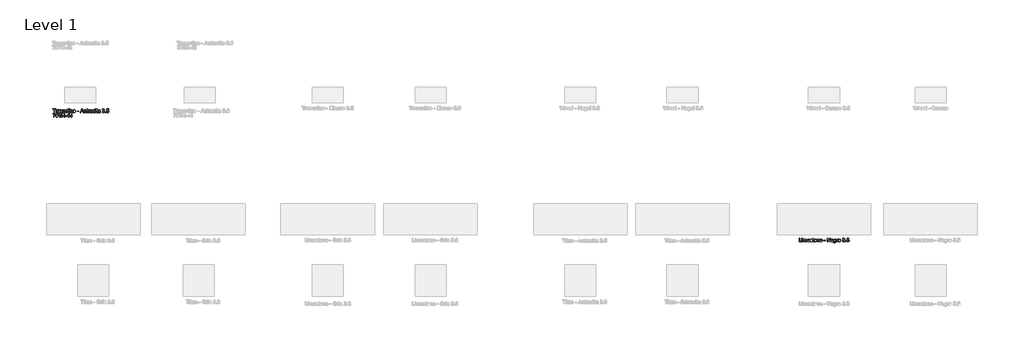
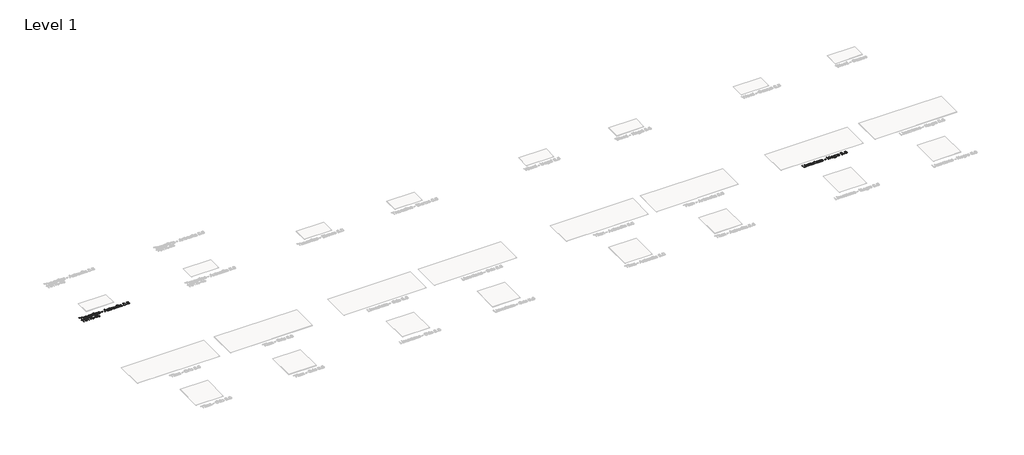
# One storey, part 11 of 80: 2 proxies.
"""IFC4 building model written with IfcOpenShell, lengths in millimetres."""

from ifc_helpers import new_model, si_unit, origin, origin_with_axes, place, context, project, spatial, polyline, outline, extrude, element, save

model = new_model("IFC4")

# Units and contexts
model_context = context("Model", 3, world=origin())
ifc_project = project(units=[si_unit("LENGTHUNIT", "METRE", prefix="MILLI")], contexts=[model_context])

# Site, building, storey
site = spatial("IfcSite", under=ifc_project)
building = spatial("IfcBuilding", under=site)
storey = spatial("IfcBuildingStorey", under=building, Name="Level 1", Elevation=0.0)

# Proxies
placement = place(None, origin())
element("IfcBuildingElementProxy", 1, Name="24\" Arial", ObjectType="24\" Arial", at=placement, inside=storey, context=model_context, shape_type="SweptSolid", body=[
    extrude(outline(polyline([(-27285.2491436, -12507.7661662), (-27285.2491436, -12404.3815508), (-27324.0183744, -12404.3815508), (-27324.0183744, -12389.61232), (-27231.7106821, -12389.61232), (-27231.7106821, -12404.3815508), (-27270.4799128, -12404.3815508), (-27270.4799128, -12507.7661662), (-27285.2491436, -12507.7661662)])), origin_with_axes(), (0.0, 0.0, 1.0), 2.0),
    extrude(outline(polyline([(-27216.9414513, -12507.7661662), (-27216.9414513, -12420.9969354), (-27204.0183744, -12420.9969354), (-27204.0183744, -12433.8334739), (-27194.8452975, -12422.0065508), (-27185.6145282, -12419.1507816), (-27170.7876051, -12423.7084739), (-27175.7202975, -12436.9488585), (-27186.1049128, -12433.9200123), (-27194.4558744, -12436.8334739), (-27199.7779898, -12444.9103969), (-27202.1722205, -12462.1603969), (-27202.1722205, -12507.7661662), (-27216.9414513, -12507.7661662)])), origin_with_axes(), (0.0, 0.0, 1.0), 2.0),
    extrude(outline(polyline([(-27106.1722205, -12496.6892431), (-27120.4943359, -12506.6988585), (-27136.3164513, -12509.61232), (-27148.6589994, -12507.8599162), (-27157.7635667, -12502.6027046), (-27163.3777494, -12494.6195316), (-27165.2491436, -12484.6892431), (-27162.4222205, -12473.0065508), (-27154.9943359, -12464.5257816), (-27144.6529898, -12459.6796277), (-27131.8741436, -12457.4584739), (-27106.258759, -12452.3815508), (-27106.1722205, -12449.0930892), (-27110.2395282, -12438.1892431), (-27126.5664513, -12433.9200123), (-27141.508759, -12436.7613585), (-27148.633759, -12446.8430892), (-27163.4029898, -12444.9969354), (-27157.0135667, -12430.5738585), (-27144.1481821, -12422.1219354), (-27124.6626051, -12419.1507816), (-27106.7635667, -12421.7757816), (-27096.6529898, -12428.3671277), (-27092.1241436, -12438.3911662), (-27091.4029898, -12451.3142431), (-27091.4029898, -12469.6892431), (-27090.6529898, -12495.3478969), (-27087.7106821, -12507.7661662), (-27102.4799128, -12507.7661662), (-27106.1722205, -12496.6892431)]), holes=[polyline([(-27106.1722205, -12467.1507816), (-27129.9991436, -12471.6796277), (-27142.7058744, -12474.0738585), (-27148.4606821, -12477.9680892), (-27150.4799128, -12483.6507816), (-27146.0808744, -12491.6411662), (-27133.1722205, -12494.8430892), (-27118.2299128, -12491.3094354), (-27108.5952975, -12482.7565508), (-27106.258759, -12471.3334739), (-27106.1722205, -12467.1507816)])]), origin_with_axes(), (0.0, 0.0, 1.0), 2.0),
    extrude(outline(polyline([(-27049.8068359, -12507.7661662), (-27080.3260667, -12420.9969354), (-27064.6914513, -12420.9969354), (-27046.2010667, -12472.9777046), (-27040.633759, -12490.4584739), (-27035.1818359, -12473.9584739), (-27016.5760667, -12420.9969354), (-27000.9414513, -12420.9969354), (-27031.0856821, -12507.7661662), (-27049.8068359, -12507.7661662)])), origin_with_axes(), (0.0, 0.0, 1.0), 2.0),
    extrude(outline(polyline([(-26927.2683744, -12481.9200123), (-26912.7876051, -12483.7661662), (-26918.0051532, -12494.6772239), (-26926.3308744, -12502.8334739), (-26937.5772686, -12507.9176085), (-26951.5568359, -12509.61232), (-26968.8861628, -12506.6880412), (-26982.2202975, -12497.9152046), (-26990.7227013, -12483.8635219), (-26993.5568359, -12465.1027046), (-26990.6938551, -12445.7108777), (-26982.1049128, -12431.2084739), (-26968.9510667, -12422.1652046), (-26952.3933744, -12419.1507816), (-26936.3513071, -12422.1579931), (-26923.5327975, -12431.1796277), (-26915.1277494, -12445.6531854), (-26912.3260667, -12465.0161662), (-26912.4126051, -12468.9969354), (-26978.7876051, -12468.9969354), (-26976.2311148, -12480.0522239), (-26970.2924128, -12488.1796277), (-26961.7214994, -12493.1772239), (-26951.2683744, -12494.8430892), (-26936.7876051, -12491.7565508), (-26927.2683744, -12481.9200123)]), holes=[polyline([(-26978.7876051, -12454.2277046), (-26927.0952975, -12454.2277046), (-26933.008759, -12440.8430892), (-26941.6193359, -12435.6507816), (-26952.4510667, -12433.9200123), (-26970.6385667, -12439.4440508), (-26976.3609225, -12445.9019835), (-26978.7876051, -12454.2277046)])]), origin_with_axes(), (0.0, 0.0, 1.0), 2.0),
    extrude(outline(polyline([(-26897.5568359, -12507.7661662), (-26897.5568359, -12420.9969354), (-26884.633759, -12420.9969354), (-26884.633759, -12433.8334739), (-26875.4606821, -12422.0065508), (-26866.2299128, -12419.1507816), (-26851.4029898, -12423.7084739), (-26856.3356821, -12436.9488585), (-26866.7202975, -12433.9200123), (-26875.071259, -12436.8334739), (-26880.3933744, -12444.9103969), (-26882.7876051, -12462.1603969), (-26882.7876051, -12507.7661662), (-26897.5568359, -12507.7661662)])), origin_with_axes(), (0.0, 0.0, 1.0), 2.0),
    extrude(outline(polyline([(-26810.7876051, -12495.4488585), (-26808.9414513, -12508.1988585), (-26819.9895282, -12509.61232), (-26832.3645282, -12507.1603969), (-26838.5376051, -12500.7277046), (-26840.3260667, -12483.9680892), (-26840.3260667, -12435.7661662), (-26851.4029898, -12435.7661662), (-26851.4029898, -12420.9969354), (-26840.3260667, -12420.9969354), (-26840.3260667, -12399.9103969), (-26825.5568359, -12391.2277046), (-26825.5568359, -12420.9969354), (-26810.7876051, -12420.9969354), (-26810.7876051, -12435.7661662), (-26825.5568359, -12435.7661662), (-26825.5568359, -12483.5353969), (-26824.7779898, -12491.1507816), (-26822.2539513, -12493.8478969), (-26817.2202975, -12494.8430892), (-26810.7876051, -12495.4488585)])), origin_with_axes(), (0.0, 0.0, 1.0), 2.0),
    extrude(outline(polyline([(-26796.0183744, -12404.3815508), (-26796.0183744, -12389.61232), (-26781.2491436, -12389.61232), (-26781.2491436, -12404.3815508), (-26796.0183744, -12404.3815508)])), origin_with_axes(), (0.0, 0.0, 1.0), 2.0),
    extrude(outline(polyline([(-26796.0183744, -12507.7661662), (-26796.0183744, -12420.9969354), (-26781.2491436, -12420.9969354), (-26781.2491436, -12507.7661662), (-26796.0183744, -12507.7661662)])), origin_with_axes(), (0.0, 0.0, 1.0), 2.0),
    extrude(outline(polyline([(-26759.0952975, -12507.7661662), (-26759.0952975, -12420.9969354), (-26744.3260667, -12420.9969354), (-26744.3260667, -12433.11232), (-26733.0327975, -12422.6411662), (-26717.6145282, -12419.1507816), (-26703.6674128, -12421.9632816), (-26694.1481821, -12429.3478969), (-26689.7202975, -12440.2084739), (-26688.9414513, -12454.48732), (-26688.9414513, -12507.7661662), (-26703.7106821, -12507.7661662), (-26703.7106821, -12456.4777046), (-26705.4126051, -12443.4103969), (-26711.4270282, -12436.5017431), (-26721.5664513, -12433.9200123), (-26737.5904898, -12439.7180892), (-26742.6421725, -12448.1195316), (-26744.3260667, -12461.7277046), (-26744.3260667, -12507.7661662), (-26759.0952975, -12507.7661662)])), origin_with_axes(), (0.0, 0.0, 1.0), 2.0),
    extrude(outline(polyline([(-26672.3260667, -12464.3815508), (-26669.1313551, -12443.4608777), (-26659.5472205, -12428.7565508), (-26647.7058744, -12421.5522239), (-26633.5279898, -12419.1507816), (-26618.0123648, -12422.0750604), (-26605.6193359, -12430.8478969), (-26597.4955378, -12444.7769835), (-26594.7876051, -12463.1700123), (-26599.5760667, -12489.4488585), (-26613.5231821, -12504.3190508), (-26633.5279898, -12509.61232), (-26649.2311148, -12506.6988585), (-26661.6097205, -12497.9584739), (-26669.6469801, -12483.73732), (-26672.3260667, -12464.3815508)]), holes=[polyline([(-26657.5568359, -12464.3527046), (-26655.8477013, -12477.7192912), (-26650.7202975, -12487.2421277), (-26643.0039513, -12492.9428489), (-26633.5279898, -12494.8430892), (-26624.0952975, -12492.9320316), (-26616.3933744, -12487.1988585), (-26611.2659705, -12477.54982), (-26609.5568359, -12463.8911662), (-26611.2767878, -12450.9140027), (-26616.4366436, -12441.5209739), (-26624.149384, -12435.8202527), (-26633.5279898, -12433.9200123), (-26643.0039513, -12435.8130412), (-26650.7202975, -12441.4921277), (-26655.8477013, -12450.9933296), (-26657.5568359, -12464.3527046)])]), origin_with_axes(), (0.0, 0.0, 1.0), 2.0),
    extrude(outline(polyline([(-26539.4029898, -12472.6892431), (-26539.4029898, -12457.9200123), (-26493.2491436, -12457.9200123), (-26493.2491436, -12472.6892431), (-26539.4029898, -12472.6892431)])), origin_with_axes(), (0.0, 0.0, 1.0), 2.0),
    extrude(outline(polyline([(-26442.3933744, -12507.7661662), (-26395.2299128, -12389.61232), (-26382.6529898, -12389.61232), (-26335.4895282, -12507.7661662), (-26351.0952975, -12507.7661662), (-26364.6241436, -12470.8430892), (-26413.2876051, -12470.8430892), (-26426.7876051, -12507.7661662), (-26442.3933744, -12507.7661662)]), holes=[polyline([(-26407.8645282, -12456.0738585), (-26370.0183744, -12456.0738585), (-26380.6626051, -12427.0257816), (-26388.9414513, -12404.3815508), (-26396.2972205, -12424.48732), (-26407.8645282, -12456.0738585)])]), origin_with_axes(), (0.0, 0.0, 1.0), 2.0),
    extrude(outline(polyline([(-26321.5568359, -12507.7661662), (-26321.5568359, -12420.9969354), (-26306.7876051, -12420.9969354), (-26306.7876051, -12433.11232), (-26295.4943359, -12422.6411662), (-26280.0760667, -12419.1507816), (-26266.1289513, -12421.9632816), (-26256.6097205, -12429.3478969), (-26252.1818359, -12440.2084739), (-26251.4029898, -12454.48732), (-26251.4029898, -12507.7661662), (-26266.1722205, -12507.7661662), (-26266.1722205, -12456.4777046), (-26267.8741436, -12443.4103969), (-26273.8885667, -12436.5017431), (-26284.0279898, -12433.9200123), (-26300.0520282, -12439.7180892), (-26305.1037109, -12448.1195316), (-26306.7876051, -12461.7277046), (-26306.7876051, -12507.7661662), (-26321.5568359, -12507.7661662)])), origin_with_axes(), (0.0, 0.0, 1.0), 2.0),
    extrude(outline(polyline([(-26199.7106821, -12495.4488585), (-26197.8645282, -12508.1988585), (-26208.9126051, -12509.61232), (-26221.2876051, -12507.1603969), (-26227.4606821, -12500.7277046), (-26229.2491436, -12483.9680892), (-26229.2491436, -12435.7661662), (-26240.3260667, -12435.7661662), (-26240.3260667, -12420.9969354), (-26229.2491436, -12420.9969354), (-26229.2491436, -12399.9103969), (-26214.4799128, -12391.2277046), (-26214.4799128, -12420.9969354), (-26199.7106821, -12420.9969354), (-26199.7106821, -12435.7661662), (-26214.4799128, -12435.7661662), (-26214.4799128, -12483.5353969), (-26213.7010667, -12491.1507816), (-26211.1770282, -12493.8478969), (-26206.1433744, -12494.8430892), (-26199.7106821, -12495.4488585)])), origin_with_axes(), (0.0, 0.0, 1.0), 2.0),
    extrude(outline(polyline([(-26184.9414513, -12507.7661662), (-26184.9414513, -12420.9969354), (-26172.0183744, -12420.9969354), (-26172.0183744, -12433.8334739), (-26162.8452975, -12422.0065508), (-26153.6145282, -12419.1507816), (-26138.7876051, -12423.7084739), (-26143.7202975, -12436.9488585), (-26154.1049128, -12433.9200123), (-26162.4558744, -12436.8334739), (-26167.7779898, -12444.9103969), (-26170.1722205, -12462.1603969), (-26170.1722205, -12507.7661662), (-26184.9414513, -12507.7661662)])), origin_with_axes(), (0.0, 0.0, 1.0), 2.0),
    extrude(outline(polyline([(-26074.1722205, -12496.6892431), (-26088.4943359, -12506.6988585), (-26104.3164513, -12509.61232), (-26116.6589994, -12507.8599162), (-26125.7635667, -12502.6027046), (-26131.3777494, -12494.6195316), (-26133.2491436, -12484.6892431), (-26130.4222205, -12473.0065508), (-26122.9943359, -12464.5257816), (-26112.6529898, -12459.6796277), (-26099.8741436, -12457.4584739), (-26074.258759, -12452.3815508), (-26074.1722205, -12449.0930892), (-26078.2395282, -12438.1892431), (-26094.5664513, -12433.9200123), (-26109.508759, -12436.7613585), (-26116.633759, -12446.8430892), (-26131.4029898, -12444.9969354), (-26125.0135667, -12430.5738585), (-26112.1481821, -12422.1219354), (-26092.6626051, -12419.1507816), (-26074.7635667, -12421.7757816), (-26064.6529898, -12428.3671277), (-26060.1241436, -12438.3911662), (-26059.4029898, -12451.3142431), (-26059.4029898, -12469.6892431), (-26058.6529898, -12495.3478969), (-26055.7106821, -12507.7661662), (-26070.4799128, -12507.7661662), (-26074.1722205, -12496.6892431)]), holes=[polyline([(-26074.1722205, -12467.1507816), (-26097.9991436, -12471.6796277), (-26110.7058744, -12474.0738585), (-26116.4606821, -12477.9680892), (-26118.4799128, -12483.6507816), (-26114.0808744, -12491.6411662), (-26101.1722205, -12494.8430892), (-26086.2299128, -12491.3094354), (-26076.5952975, -12482.7565508), (-26074.258759, -12471.3334739), (-26074.1722205, -12467.1507816)])]), origin_with_axes(), (0.0, 0.0, 1.0), 2.0),
    extrude(outline(polyline([(-25983.7106821, -12476.3815508), (-25968.9414513, -12478.2277046), (-25973.0592398, -12491.3635219), (-25980.7972205, -12501.2902046), (-25991.4270282, -12507.5317912), (-26004.2202975, -12509.61232), (-26019.930634, -12506.7096758), (-26032.2154898, -12498.0017431), (-26040.1445763, -12483.8707335), (-26042.7876051, -12464.6988585), (-26038.2731821, -12440.1652046), (-26032.5760667, -12430.9668873), (-26024.5135667, -12424.4007816), (-26004.4222205, -12419.1507816), (-25991.9426532, -12420.9536662), (-25981.9654898, -12426.36232), (-25974.8080378, -12435.0882816), (-25970.7876051, -12446.8430892), (-25985.5568359, -12448.6892431), (-25992.4077975, -12437.6267431), (-26004.3068359, -12433.9200123), (-26013.8513071, -12435.7445316), (-26021.4270282, -12441.2180892), (-26026.3705378, -12450.6363585), (-26028.0183744, -12464.2950123), (-26026.4065955, -12478.1375604), (-26021.571259, -12487.5882816), (-26014.1325571, -12493.0293873), (-26004.7106821, -12494.8430892), (-25990.7924128, -12490.3142431), (-25983.7106821, -12476.3815508)])), origin_with_axes(), (0.0, 0.0, 1.0), 2.0),
    extrude(outline(polyline([(-25956.0183744, -12404.3815508), (-25956.0183744, -12389.61232), (-25941.2491436, -12389.61232), (-25941.2491436, -12404.3815508), (-25956.0183744, -12404.3815508)])), origin_with_axes(), (0.0, 0.0, 1.0), 2.0),
    extrude(outline(polyline([(-25956.0183744, -12507.7661662), (-25956.0183744, -12420.9969354), (-25941.2491436, -12420.9969354), (-25941.2491436, -12507.7661662), (-25956.0183744, -12507.7661662)])), origin_with_axes(), (0.0, 0.0, 1.0), 2.0),
    extrude(outline(polyline([(-25887.7106821, -12495.4488585), (-25885.8645282, -12508.1988585), (-25896.9126051, -12509.61232), (-25909.2876051, -12507.1603969), (-25915.4606821, -12500.7277046), (-25917.2491436, -12483.9680892), (-25917.2491436, -12435.7661662), (-25928.3260667, -12435.7661662), (-25928.3260667, -12420.9969354), (-25917.2491436, -12420.9969354), (-25917.2491436, -12399.9103969), (-25902.4799128, -12391.2277046), (-25902.4799128, -12420.9969354), (-25887.7106821, -12420.9969354), (-25887.7106821, -12435.7661662), (-25902.4799128, -12435.7661662), (-25902.4799128, -12483.5353969), (-25901.7010667, -12491.1507816), (-25899.1770282, -12493.8478969), (-25894.1433744, -12494.8430892), (-25887.7106821, -12495.4488585)])), origin_with_axes(), (0.0, 0.0, 1.0), 2.0),
    extrude(outline(polyline([(-25817.5568359, -12496.6892431), (-25831.8789513, -12506.6988585), (-25847.7010667, -12509.61232), (-25860.0436148, -12507.8599162), (-25869.1481821, -12502.6027046), (-25874.7623648, -12494.6195316), (-25876.633759, -12484.6892431), (-25873.8068359, -12473.0065508), (-25866.3789513, -12464.5257816), (-25856.0376051, -12459.6796277), (-25843.258759, -12457.4584739), (-25817.6433744, -12452.3815508), (-25817.5568359, -12449.0930892), (-25821.6241436, -12438.1892431), (-25837.9510667, -12433.9200123), (-25852.8933744, -12436.7613585), (-25860.0183744, -12446.8430892), (-25874.7876051, -12444.9969354), (-25868.3981821, -12430.5738585), (-25855.5327975, -12422.1219354), (-25836.0472205, -12419.1507816), (-25818.1481821, -12421.7757816), (-25808.0376051, -12428.3671277), (-25803.508759, -12438.3911662), (-25802.7876051, -12451.3142431), (-25802.7876051, -12469.6892431), (-25802.0376051, -12495.3478969), (-25799.0952975, -12507.7661662), (-25813.8645282, -12507.7661662), (-25817.5568359, -12496.6892431)]), holes=[polyline([(-25817.5568359, -12467.1507816), (-25841.383759, -12471.6796277), (-25854.0904898, -12474.0738585), (-25859.8452975, -12477.9680892), (-25861.8645282, -12483.6507816), (-25857.4654898, -12491.6411662), (-25844.5568359, -12494.8430892), (-25829.6145282, -12491.3094354), (-25819.9799128, -12482.7565508), (-25817.6433744, -12471.3334739), (-25817.5568359, -12467.1507816)])]), origin_with_axes(), (0.0, 0.0, 1.0), 2.0),
    extrude(outline(polyline([(-25740.0183744, -12476.3815508), (-25725.2491436, -12474.5353969), (-25717.1001051, -12490.0834739), (-25701.8549128, -12494.8430892), (-25691.7299128, -12493.20607), (-25683.9126051, -12488.2950123), (-25678.915009, -12480.9680892), (-25677.2491436, -12472.0834739), (-25678.9005859, -12463.6495796), (-25683.8549128, -12456.8094354), (-25691.3549128, -12452.2769835), (-25700.6433744, -12450.7661662), (-25710.9991436, -12452.3815508), (-25709.3549128, -12437.61232), (-25706.9895282, -12437.7853969), (-25690.2299128, -12433.5450123), (-25684.6481821, -12428.1652046), (-25682.7876051, -12420.5065508), (-25688.1818359, -12408.9536662), (-25702.0856821, -12404.3815508), (-25716.1626051, -12408.9969354), (-25723.4029898, -12422.8430892), (-25738.1722205, -12420.9969354), (-25733.8236628, -12407.7349162), (-25726.0856821, -12397.8334739), (-25715.4991436, -12391.6676085), (-25702.6049128, -12389.61232), (-25684.7924128, -12393.6652046), (-25672.3308744, -12404.7421277), (-25668.0183744, -12419.6411662), (-25672.1145282, -12433.2565508), (-25684.2299128, -12443.0353969), (-25674.9847205, -12446.7709739), (-25668.133759, -12453.1315508), (-25663.8933744, -12461.7709739), (-25662.4799128, -12472.3430892), (-25665.3068359, -12486.73732), (-25673.7876051, -12498.7661662), (-25686.5880859, -12506.9007816), (-25702.3741436, -12509.61232), (-25716.6529898, -12507.2974162), (-25728.2779898, -12500.3527046), (-25736.3621244, -12489.7301085), (-25740.0183744, -12476.3815508)])), origin_with_axes(), (0.0, 0.0, 1.0), 2.0),
    extrude(outline(polyline([(-25642.1722205, -12507.7661662), (-25642.1722205, -12492.9969354), (-25627.4029898, -12492.9969354), (-25627.4029898, -12507.7661662), (-25642.1722205, -12507.7661662)])), origin_with_axes(), (0.0, 0.0, 1.0), 2.0),
    extrude(outline(polyline([(-25603.4029898, -12476.3815508), (-25588.633759, -12474.5353969), (-25581.1914513, -12489.7517431), (-25565.758759, -12494.8430892), (-25555.1722205, -12493.0726566), (-25547.2395282, -12487.7613585), (-25542.2852013, -12479.5221758), (-25540.633759, -12468.9680892), (-25542.180634, -12459.0305892), (-25546.821259, -12451.4296277), (-25554.5916917, -12446.6051085), (-25565.5279898, -12444.9969354), (-25578.4943359, -12447.5642431), (-25586.7876051, -12454.2277046), (-25601.5568359, -12452.3815508), (-25588.633759, -12391.4584739), (-25531.4029898, -12391.4584739), (-25531.4029898, -12406.2277046), (-25576.6914513, -12406.2277046), (-25583.008759, -12438.7661662), (-25572.4582782, -12432.36232), (-25561.4029898, -12430.2277046), (-25547.6037109, -12432.8743392), (-25536.1481821, -12440.8142431), (-25528.4354417, -12452.9152046), (-25525.8645282, -12468.0450123), (-25528.1794321, -12482.8142431), (-25535.1241436, -12495.4488585), (-25548.4222205, -12506.0714546), (-25565.8164513, -12509.61232), (-25580.3224609, -12507.3370796), (-25591.8789513, -12500.5113585), (-25599.8008263, -12489.9284258), (-25603.4029898, -12476.3815508)])), origin_with_axes(), (0.0, 0.0, 1.0), 2.0),
    extrude(outline(polyline([(-27320.3260667, -12552.0738585), (-27320.3260667, -12537.3046277), (-27242.7876051, -12537.3046277), (-27242.7876051, -12549.2469354), (-27264.7827975, -12581.0209739), (-27281.6145282, -12621.5065508), (-27287.0952975, -12653.61232), (-27301.8645282, -12653.61232), (-27295.9943359, -12620.2950123), (-27279.883759, -12582.6363585), (-27257.5568359, -12552.0738585), (-27320.3260667, -12552.0738585)])), origin_with_axes(), (0.0, 0.0, 1.0), 2.0),
    extrude(outline(polyline([(-27208.3452975, -12588.5353969), (-27221.8020282, -12579.36232), (-27226.1722205, -12565.0834739), (-27223.7924128, -12553.5378008), (-27216.6529898, -12543.9969354), (-27205.5544321, -12537.5930892), (-27191.2972205, -12535.4584739), (-27176.9534705, -12537.64357), (-27165.7106821, -12544.1988585), (-27158.4414513, -12553.8911662), (-27156.0183744, -12565.48732), (-27160.3308744, -12579.4055892), (-27173.4126051, -12588.5353969), (-27164.3224609, -12593.2192912), (-27157.7058744, -12600.1171277), (-27152.3260667, -12619.2277046), (-27154.9943359, -12633.3478969), (-27162.9991436, -12645.0161662), (-27175.3597205, -12652.8478969), (-27191.0952975, -12655.4584739), (-27206.8308744, -12652.8370796), (-27219.1914513, -12644.9728969), (-27227.196259, -12633.1928489), (-27229.8645282, -12618.8238585), (-27228.4654898, -12608.0930892), (-27224.2683744, -12599.2661662), (-27217.4895282, -12592.6459739), (-27208.3452975, -12588.5353969)]), holes=[polyline([(-27215.0952975, -12618.3046277), (-27212.6289513, -12629.42482), (-27203.9029898, -12637.7469354), (-27190.9799128, -12640.6892431), (-27180.9270282, -12639.1423681), (-27173.383759, -12634.5017431), (-27168.6674128, -12627.4740989), (-27167.0952975, -12618.7661662), (-27168.7178936, -12609.9103969), (-27173.5856821, -12602.7277046), (-27181.3020282, -12597.9680892), (-27191.4702975, -12596.3815508), (-27201.3825571, -12597.9464546), (-27208.8501051, -12602.6411662), (-27213.5339994, -12609.6868392), (-27215.0952975, -12618.3046277)]), polyline([(-27211.4029898, -12565.5161662), (-27206.1674128, -12577.11232), (-27190.9222205, -12581.61232), (-27175.9799128, -12577.1411662), (-27170.7876051, -12566.1796277), (-27176.1529898, -12554.8286662), (-27191.0952975, -12550.2277046), (-27206.0808744, -12554.7277046), (-27211.4029898, -12565.5161662)])]), origin_with_axes(), (0.0, 0.0, 1.0), 2.0),
    extrude(outline(polyline([(-27104.3260667, -12653.61232), (-27104.3260667, -12550.2277046), (-27143.0952975, -12550.2277046), (-27143.0952975, -12535.4584739), (-27050.7876051, -12535.4584739), (-27050.7876051, -12550.2277046), (-27089.5568359, -12550.2277046), (-27089.5568359, -12653.61232), (-27104.3260667, -12653.61232)])), origin_with_axes(), (0.0, 0.0, 1.0), 2.0),
    extrude(outline(polyline([(-27034.1722205, -12653.61232), (-27034.1722205, -12535.4584739), (-26983.258759, -12535.4584739), (-26959.6193359, -12538.6459739), (-26946.696259, -12549.92482), (-26941.8645282, -12567.7950123), (-26943.8657301, -12579.4344354), (-26949.8693359, -12589.0834739), (-26960.055634, -12596.1579931), (-26974.6049128, -12600.0738585), (-26966.2106821, -12606.3911662), (-26954.2395282, -12621.5930892), (-26934.5376051, -12653.61232), (-26951.7010667, -12653.61232), (-26967.0760667, -12629.1219354), (-26978.1818359, -12612.9103969), (-26985.9847205, -12605.2517431), (-26993.008759, -12602.4392431), (-27001.5760667, -12601.9200123), (-27019.4029898, -12601.9200123), (-27019.4029898, -12653.61232), (-27034.1722205, -12653.61232)]), holes=[polyline([(-27019.4029898, -12587.1507816), (-26986.3452975, -12587.1507816), (-26969.4847205, -12585.0594354), (-26959.9077975, -12578.3671277), (-26956.633759, -12568.3430892), (-26958.1950571, -12561.1387623), (-26962.8789513, -12555.3334739), (-26970.9378455, -12551.5041469), (-26982.6241436, -12550.2277046), (-27019.4029898, -12550.2277046), (-27019.4029898, -12587.1507816)])]), origin_with_axes(), (0.0, 0.0, 1.0), 2.0),
    extrude(outline(polyline([(-26925.2491436, -12618.5353969), (-26925.2491436, -12603.7661662), (-26879.0952975, -12603.7661662), (-26879.0952975, -12618.5353969), (-26925.2491436, -12618.5353969)])), origin_with_axes(), (0.0, 0.0, 1.0), 2.0),
    extrude(outline(polyline([(-26818.1722205, -12653.61232), (-26818.1722205, -12625.9200123), (-26871.7106821, -12625.9200123), (-26871.7106821, -12611.1507816), (-26814.4799128, -12537.3046277), (-26803.4029898, -12537.3046277), (-26803.4029898, -12611.1507816), (-26788.633759, -12611.1507816), (-26788.633759, -12625.9200123), (-26803.4029898, -12625.9200123), (-26803.4029898, -12653.61232), (-26818.1722205, -12653.61232)]), holes=[polyline([(-26818.1722205, -12611.1507816), (-26818.1722205, -12565.5161662), (-26853.5376051, -12611.1507816), (-26818.1722205, -12611.1507816)])]), origin_with_axes(), (0.0, 0.0, 1.0), 2.0),
    extrude(outline(polyline([(-26727.7106821, -12653.61232), (-26727.7106821, -12625.9200123), (-26781.2491436, -12625.9200123), (-26781.2491436, -12611.1507816), (-26724.0183744, -12537.3046277), (-26712.9414513, -12537.3046277), (-26712.9414513, -12611.1507816), (-26698.1722205, -12611.1507816), (-26698.1722205, -12625.9200123), (-26712.9414513, -12625.9200123), (-26712.9414513, -12653.61232), (-26727.7106821, -12653.61232)]), holes=[polyline([(-26727.7106821, -12611.1507816), (-26727.7106821, -12565.5161662), (-26763.0760667, -12611.1507816), (-26727.7106821, -12611.1507816)])]), origin_with_axes(), (0.0, 0.0, 1.0), 2.0),
])
element("IfcBuildingElementProxy", 2, Name="24\" Arial", ObjectType="24\" Arial", at=placement, inside=storey, context=model_context, shape_type="SweptSolid", body=[
    extrude(outline(polyline([(-3383.0761079, -16654.869717), (-3383.0761079, -16536.7158709), (-3368.3068771, -16536.7158709), (-3368.3068771, -16640.1004862), (-3309.2299541, -16640.1004862), (-3309.2299541, -16654.869717), (-3383.0761079, -16654.869717)])), origin_with_axes(), (0.0, 0.0, 1.0), 2.0),
    extrude(outline(polyline([(-3294.4607233, -16551.4851016), (-3294.4607233, -16536.7158709), (-3279.6914925, -16536.7158709), (-3279.6914925, -16551.4851016), (-3294.4607233, -16551.4851016)])), origin_with_axes(), (0.0, 0.0, 1.0), 2.0),
    extrude(outline(polyline([(-3294.4607233, -16654.869717), (-3294.4607233, -16568.1004862), (-3279.6914925, -16568.1004862), (-3279.6914925, -16654.869717), (-3294.4607233, -16654.869717)])), origin_with_axes(), (0.0, 0.0, 1.0), 2.0),
    extrude(outline(polyline([(-3257.5376464, -16654.869717), (-3257.5376464, -16568.1004862), (-3242.7684156, -16568.1004862), (-3242.7684156, -16582.3793324), (-3232.6145694, -16570.682217), (-3218.1626464, -16566.2543324), (-3203.3645694, -16570.7687555), (-3195.2299541, -16583.4177939), (-3183.7059156, -16570.5451978), (-3169.153031, -16566.2543324), (-3158.0508675, -16568.0391882), (-3149.840531, -16573.3937555), (-3144.7672137, -16582.4622651), (-3143.0761079, -16595.3889478), (-3143.0761079, -16654.869717), (-3157.8453387, -16654.869717), (-3157.8453387, -16601.7351016), (-3159.215531, -16589.4033709), (-3164.1770694, -16583.3312555), (-3172.6145694, -16581.0235632), (-3180.6157714, -16582.5019285), (-3187.1386079, -16586.9370247), (-3191.4763483, -16594.6317362), (-3192.9222617, -16605.8889478), (-3192.9222617, -16654.869717), (-3207.6914925, -16654.869717), (-3207.6914925, -16600.0908709), (-3211.1097617, -16585.7831785), (-3222.3164925, -16581.0235632), (-3233.2491848, -16584.1966401), (-3240.5184156, -16593.4851016), (-3242.7684156, -16611.1101016), (-3242.7684156, -16654.869717), (-3257.5376464, -16654.869717)])), origin_with_axes(), (0.0, 0.0, 1.0), 2.0),
    extrude(outline(polyline([(-3060.1722617, -16629.0235632), (-3045.6914925, -16630.869717), (-3050.9090406, -16641.7807747), (-3059.2347617, -16649.9370247), (-3070.481156, -16655.0211593), (-3084.4607233, -16656.7158709), (-3101.7900502, -16653.791592), (-3115.1241848, -16645.0187555), (-3123.6265887, -16630.9670728), (-3126.4607233, -16612.2062555), (-3123.5977425, -16592.8144285), (-3115.0088002, -16578.3120247), (-3101.8549541, -16569.2687555), (-3085.2972617, -16566.2543324), (-3069.2551944, -16569.2615439), (-3056.4366848, -16578.2831785), (-3048.0316367, -16592.7567362), (-3045.2299541, -16612.119717), (-3045.3164925, -16616.1004862), (-3111.6914925, -16616.1004862), (-3109.1350021, -16627.1557747), (-3103.1963002, -16635.2831785), (-3094.6253867, -16640.2807747), (-3084.1722617, -16641.9466401), (-3069.6914925, -16638.8601016), (-3060.1722617, -16629.0235632)]), holes=[polyline([(-3111.6914925, -16601.3312555), (-3059.9991848, -16601.3312555), (-3065.9126464, -16587.9466401), (-3074.5232233, -16582.7543324), (-3085.3549541, -16581.0235632), (-3103.5424541, -16586.5476016), (-3109.2648098, -16593.0055343), (-3111.6914925, -16601.3312555)])]), origin_with_axes(), (0.0, 0.0, 1.0), 2.0),
    extrude(outline(polyline([(-3035.9991848, -16629.0235632), (-3021.2299541, -16627.1774093), (-3014.3934156, -16638.1389478), (-2998.7299541, -16641.9466401), (-2983.6722617, -16638.4562555), (-2978.7684156, -16630.2639478), (-2983.7011079, -16623.6293324), (-2998.903031, -16619.4177939), (-3021.1434156, -16612.1918324), (-3030.8501464, -16603.7543324), (-3034.153031, -16591.8408709), (-3031.4991848, -16580.8360632), (-3024.2588002, -16572.4274093), (-3014.8693771, -16568.057217), (-3002.1626464, -16566.2543324), (-2984.1914925, -16569.1533709), (-2972.7684156, -16576.9995247), (-2967.6914925, -16590.2543324), (-2982.4607233, -16592.1004862), (-2988.0136079, -16583.9514478), (-3001.0088002, -16581.0235632), (-3015.1434156, -16583.8216401), (-3019.3838002, -16590.3408709), (-3017.6241848, -16594.6389478), (-3012.1145694, -16597.8985632), (-2999.3934156, -16601.0427939), (-2977.715531, -16607.994717), (-2967.6482233, -16615.869717), (-2963.9991848, -16628.7062555), (-2968.2828387, -16642.8408709), (-2980.6434156, -16653.0956785), (-2998.9318771, -16656.7158709), (-3013.8237041, -16654.9706785), (-3024.6914925, -16649.7351016), (-3031.9463002, -16641.0668324), (-3035.9991848, -16629.0235632)])), origin_with_axes(), (0.0, 0.0, 1.0), 2.0),
    extrude(outline(polyline([(-2915.9991848, -16642.5524093), (-2914.153031, -16655.3024093), (-2925.2011079, -16656.7158709), (-2937.5761079, -16654.2639478), (-2943.7491848, -16647.8312555), (-2945.5376464, -16631.0716401), (-2945.5376464, -16582.869717), (-2956.6145694, -16582.869717), (-2956.6145694, -16568.1004862), (-2945.5376464, -16568.1004862), (-2945.5376464, -16547.0139478), (-2930.7684156, -16538.3312555), (-2930.7684156, -16568.1004862), (-2915.9991848, -16568.1004862), (-2915.9991848, -16582.869717), (-2930.7684156, -16582.869717), (-2930.7684156, -16630.6389478), (-2929.9895694, -16638.2543324), (-2927.465531, -16640.9514478), (-2922.4318771, -16641.9466401), (-2915.9991848, -16642.5524093)])), origin_with_axes(), (0.0, 0.0, 1.0), 2.0),
    extrude(outline(polyline([(-2904.9222617, -16611.4851016), (-2901.7275502, -16590.5644285), (-2892.1434156, -16575.8601016), (-2880.3020694, -16568.6557747), (-2866.1241848, -16566.2543324), (-2850.6085598, -16569.1786112), (-2838.215531, -16577.9514478), (-2830.0917329, -16591.8805343), (-2827.3838002, -16610.2735632), (-2832.1722617, -16636.5524093), (-2846.1193771, -16651.4226016), (-2866.1241848, -16656.7158709), (-2881.8273098, -16653.8024093), (-2894.2059156, -16645.0620247), (-2902.2431752, -16630.8408709), (-2904.9222617, -16611.4851016)]), holes=[polyline([(-2890.153031, -16611.4562555), (-2888.4438964, -16624.822842), (-2883.3164925, -16634.3456785), (-2875.6001464, -16640.0463997), (-2866.1241848, -16641.9466401), (-2856.6914925, -16640.0355824), (-2848.9895694, -16634.3024093), (-2843.8621656, -16624.6533709), (-2842.153031, -16610.994717), (-2843.8729829, -16598.0175535), (-2849.0328387, -16588.6245247), (-2856.7455791, -16582.9238035), (-2866.1241848, -16581.0235632), (-2875.6001464, -16582.916592), (-2883.3164925, -16588.5956785), (-2888.4438964, -16598.0968805), (-2890.153031, -16611.4562555)])]), origin_with_axes(), (0.0, 0.0, 1.0), 2.0),
    extrude(outline(polyline([(-2810.7684156, -16654.869717), (-2810.7684156, -16568.1004862), (-2795.9991848, -16568.1004862), (-2795.9991848, -16580.2158709), (-2784.7059156, -16569.744717), (-2769.2876464, -16566.2543324), (-2755.340531, -16569.0668324), (-2745.8213002, -16576.4514478), (-2741.3934156, -16587.3120247), (-2740.6145694, -16601.5908709), (-2740.6145694, -16654.869717), (-2755.3838002, -16654.869717), (-2755.3838002, -16603.5812555), (-2757.0857233, -16590.5139478), (-2763.1001464, -16583.6052939), (-2773.2395694, -16581.0235632), (-2789.2636079, -16586.8216401), (-2794.3152906, -16595.2230824), (-2795.9991848, -16608.8312555), (-2795.9991848, -16654.869717), (-2810.7684156, -16654.869717)])), origin_with_axes(), (0.0, 0.0, 1.0), 2.0),
    extrude(outline(polyline([(-2659.5568771, -16629.0235632), (-2645.0761079, -16630.869717), (-2650.293656, -16641.7807747), (-2658.6193771, -16649.9370247), (-2669.8657714, -16655.0211593), (-2683.8453387, -16656.7158709), (-2701.1746656, -16653.791592), (-2714.5088002, -16645.0187555), (-2723.0112041, -16630.9670728), (-2725.8453387, -16612.2062555), (-2722.9823579, -16592.8144285), (-2714.3934156, -16578.3120247), (-2701.2395694, -16569.2687555), (-2684.6818771, -16566.2543324), (-2668.6398098, -16569.2615439), (-2655.8213002, -16578.2831785), (-2647.4162521, -16592.7567362), (-2644.6145694, -16612.119717), (-2644.7011079, -16616.1004862), (-2711.0761079, -16616.1004862), (-2708.5196175, -16627.1557747), (-2702.5809156, -16635.2831785), (-2694.0100021, -16640.2807747), (-2683.5568771, -16641.9466401), (-2669.0761079, -16638.8601016), (-2659.5568771, -16629.0235632)]), holes=[polyline([(-2711.0761079, -16601.3312555), (-2659.3838002, -16601.3312555), (-2665.2972617, -16587.9466401), (-2673.9078387, -16582.7543324), (-2684.7395694, -16581.0235632), (-2702.9270694, -16586.5476016), (-2708.6494252, -16593.0055343), (-2711.0761079, -16601.3312555)])]), origin_with_axes(), (0.0, 0.0, 1.0), 2.0),
    extrude(outline(polyline([(-2591.0761079, -16619.7927939), (-2591.0761079, -16605.0235632), (-2544.9222617, -16605.0235632), (-2544.9222617, -16619.7927939), (-2591.0761079, -16619.7927939)])), origin_with_axes(), (0.0, 0.0, 1.0), 2.0),
    extrude(outline(polyline([(-2480.3068771, -16654.869717), (-2480.3068771, -16536.7158709), (-2464.4991848, -16536.7158709), (-2402.7684156, -16630.3216401), (-2402.7684156, -16536.7158709), (-2387.9991848, -16536.7158709), (-2387.9991848, -16654.869717), (-2403.8068771, -16654.869717), (-2465.5376464, -16561.2351016), (-2465.5376464, -16654.869717), (-2480.3068771, -16654.869717)])), origin_with_axes(), (0.0, 0.0, 1.0), 2.0),
    extrude(outline(polyline([(-2303.2491848, -16629.0235632), (-2288.7684156, -16630.869717), (-2293.9859637, -16641.7807747), (-2302.3116848, -16649.9370247), (-2313.5580791, -16655.0211593), (-2327.5376464, -16656.7158709), (-2344.8669733, -16653.791592), (-2358.2011079, -16645.0187555), (-2366.7035117, -16630.9670728), (-2369.5376464, -16612.2062555), (-2366.6746656, -16592.8144285), (-2358.0857233, -16578.3120247), (-2344.9318771, -16569.2687555), (-2328.3741848, -16566.2543324), (-2312.3321175, -16569.2615439), (-2299.5136079, -16578.2831785), (-2291.1085598, -16592.7567362), (-2288.3068771, -16612.119717), (-2288.3934156, -16616.1004862), (-2354.7684156, -16616.1004862), (-2352.2119252, -16627.1557747), (-2346.2732233, -16635.2831785), (-2337.7023098, -16640.2807747), (-2327.2491848, -16641.9466401), (-2312.7684156, -16638.8601016), (-2303.2491848, -16629.0235632)]), holes=[polyline([(-2354.7684156, -16601.3312555), (-2303.0761079, -16601.3312555), (-2308.9895694, -16587.9466401), (-2317.6001464, -16582.7543324), (-2328.4318771, -16581.0235632), (-2346.6193771, -16586.5476016), (-2352.3417329, -16593.0055343), (-2354.7684156, -16601.3312555)])]), origin_with_axes(), (0.0, 0.0, 1.0), 2.0),
    extrude(outline(polyline([(-2277.2299541, -16662.2543324), (-2262.4607233, -16664.1004862), (-2257.6722617, -16671.8889478), (-2243.3357233, -16675.1774093), (-2228.2203387, -16671.4562555), (-2221.0088002, -16661.0139478), (-2219.9991848, -16643.7927939), (-2230.3982233, -16652.1004862), (-2243.0761079, -16654.869717), (-2258.3032714, -16651.6461593), (-2269.6578387, -16641.9754862), (-2276.7215406, -16627.7976016), (-2279.0761079, -16611.0524093), (-2274.8501464, -16588.1629862), (-2262.6193771, -16571.9658709), (-2243.7972617, -16566.2543324), (-2230.621781, -16569.4851016), (-2219.9991848, -16579.1774093), (-2219.9991848, -16568.1004862), (-2205.2299541, -16568.1004862), (-2205.2299541, -16643.0139478), (-2209.2684156, -16671.7014478), (-2222.0616848, -16685.0427939), (-2243.6241848, -16689.9466401), (-2257.3657714, -16688.2194766), (-2268.1866848, -16683.0379862), (-2275.1277906, -16674.3877459), (-2277.2299541, -16662.2543324)]), holes=[polyline([(-2264.3068771, -16610.0427939), (-2262.731156, -16623.5896689), (-2258.0039925, -16632.9033709), (-2250.8970214, -16638.3012074), (-2242.1818771, -16640.1004862), (-2233.5316367, -16638.3120247), (-2226.3886079, -16632.9466401), (-2221.5965406, -16623.7519285), (-2219.9991848, -16610.4754862), (-2221.6434156, -16597.6713997), (-2226.5761079, -16588.4514478), (-2233.8237041, -16582.8805343), (-2242.4126464, -16581.0235632), (-2250.8465406, -16582.8516882), (-2257.9174541, -16588.3360632), (-2262.7095214, -16597.4189959), (-2264.3068771, -16610.0427939)])]), origin_with_axes(), (0.0, 0.0, 1.0), 2.0),
    extrude(outline(polyline([(-2183.0761079, -16654.869717), (-2183.0761079, -16568.1004862), (-2170.153031, -16568.1004862), (-2170.153031, -16580.9370247), (-2160.9799541, -16569.1101016), (-2151.7491848, -16566.2543324), (-2136.9222617, -16570.8120247), (-2141.8549541, -16584.0524093), (-2152.2395694, -16581.0235632), (-2160.590531, -16583.9370247), (-2165.9126464, -16592.0139478), (-2168.3068771, -16609.2639478), (-2168.3068771, -16654.869717), (-2183.0761079, -16654.869717)])), origin_with_axes(), (0.0, 0.0, 1.0), 2.0),
    extrude(outline(polyline([(-2131.3838002, -16611.4851016), (-2128.1890887, -16590.5644285), (-2118.6049541, -16575.8601016), (-2106.7636079, -16568.6557747), (-2092.5857233, -16566.2543324), (-2077.0700983, -16569.1786112), (-2064.6770694, -16577.9514478), (-2056.5532714, -16591.8805343), (-2053.8453387, -16610.2735632), (-2058.6338002, -16636.5524093), (-2072.5809156, -16651.4226016), (-2092.5857233, -16656.7158709), (-2108.2888483, -16653.8024093), (-2120.6674541, -16645.0620247), (-2128.7047137, -16630.8408709), (-2131.3838002, -16611.4851016)]), holes=[polyline([(-2116.6145694, -16611.4562555), (-2114.9054348, -16624.822842), (-2109.778031, -16634.3456785), (-2102.0616848, -16640.0463997), (-2092.5857233, -16641.9466401), (-2083.153031, -16640.0355824), (-2075.4511079, -16634.3024093), (-2070.3237041, -16624.6533709), (-2068.6145694, -16610.994717), (-2070.3345214, -16598.0175535), (-2075.4943771, -16588.6245247), (-2083.2071175, -16582.9238035), (-2092.5857233, -16581.0235632), (-2102.0616848, -16582.916592), (-2109.778031, -16588.5956785), (-2114.9054348, -16598.0968805), (-2116.6145694, -16611.4562555)])]), origin_with_axes(), (0.0, 0.0, 1.0), 2.0),
    extrude(outline(polyline([(-1994.7684156, -16623.4851016), (-1979.9991848, -16621.6389478), (-1971.8501464, -16637.1870247), (-1956.6049541, -16641.9466401), (-1946.4799541, -16640.3096209), (-1938.6626464, -16635.3985632), (-1933.6650502, -16628.0716401), (-1931.9991848, -16619.1870247), (-1933.6506271, -16610.7531305), (-1938.6049541, -16603.9129862), (-1946.1049541, -16599.3805343), (-1955.3934156, -16597.869717), (-1965.7491848, -16599.4851016), (-1964.1049541, -16584.7158709), (-1961.7395694, -16584.8889478), (-1944.9799541, -16580.6485632), (-1939.3982233, -16575.2687555), (-1937.5376464, -16567.6101016), (-1942.9318771, -16556.057217), (-1956.8357233, -16551.4851016), (-1970.9126464, -16556.1004862), (-1978.153031, -16569.9466401), (-1992.9222617, -16568.1004862), (-1988.5737041, -16554.838467), (-1980.8357233, -16544.9370247), (-1970.2491848, -16538.7711593), (-1957.3549541, -16536.7158709), (-1939.5424541, -16540.7687555), (-1927.0809156, -16551.8456785), (-1922.7684156, -16566.744717), (-1926.8645694, -16580.3601016), (-1938.9799541, -16590.1389478), (-1929.7347617, -16593.8745247), (-1922.8838002, -16600.2351016), (-1918.6434156, -16608.8745247), (-1917.2299541, -16619.4466401), (-1920.0568771, -16633.8408709), (-1928.5376464, -16645.869717), (-1941.3381271, -16654.0043324), (-1957.1241848, -16656.7158709), (-1971.403031, -16654.400967), (-1983.028031, -16647.4562555), (-1991.1121656, -16636.8336593), (-1994.7684156, -16623.4851016)])), origin_with_axes(), (0.0, 0.0, 1.0), 2.0),
    extrude(outline(polyline([(-1896.9222617, -16654.869717), (-1896.9222617, -16640.1004862), (-1882.153031, -16640.1004862), (-1882.153031, -16654.869717), (-1896.9222617, -16654.869717)])), origin_with_axes(), (0.0, 0.0, 1.0), 2.0),
    extrude(outline(polyline([(-1858.153031, -16623.4851016), (-1843.3838002, -16621.6389478), (-1835.9414925, -16636.8552939), (-1820.5088002, -16641.9466401), (-1809.9222617, -16640.1762074), (-1801.9895694, -16634.8649093), (-1797.0352425, -16626.6257266), (-1795.3838002, -16616.0716401), (-1796.9306752, -16606.1341401), (-1801.5713002, -16598.5331785), (-1809.3417329, -16593.7086593), (-1820.278031, -16592.1004862), (-1833.2443771, -16594.6677939), (-1841.5376464, -16601.3312555), (-1856.3068771, -16599.4851016), (-1843.3838002, -16538.5620247), (-1786.153031, -16538.5620247), (-1786.153031, -16553.3312555), (-1831.4414925, -16553.3312555), (-1837.7588002, -16585.869717), (-1827.2083194, -16579.4658709), (-1816.153031, -16577.3312555), (-1802.3537521, -16579.9778901), (-1790.8982233, -16587.9177939), (-1783.1854829, -16600.0187555), (-1780.6145694, -16615.1485632), (-1782.9294733, -16629.9177939), (-1789.8741848, -16642.5524093), (-1803.1722617, -16653.1750055), (-1820.5664925, -16656.7158709), (-1835.0725021, -16654.4406305), (-1846.6289925, -16647.6149093), (-1854.5508675, -16637.0319766), (-1858.153031, -16623.4851016)])), origin_with_axes(), (0.0, 0.0, 1.0), 2.0),
])

save(model, "model.ifc")
